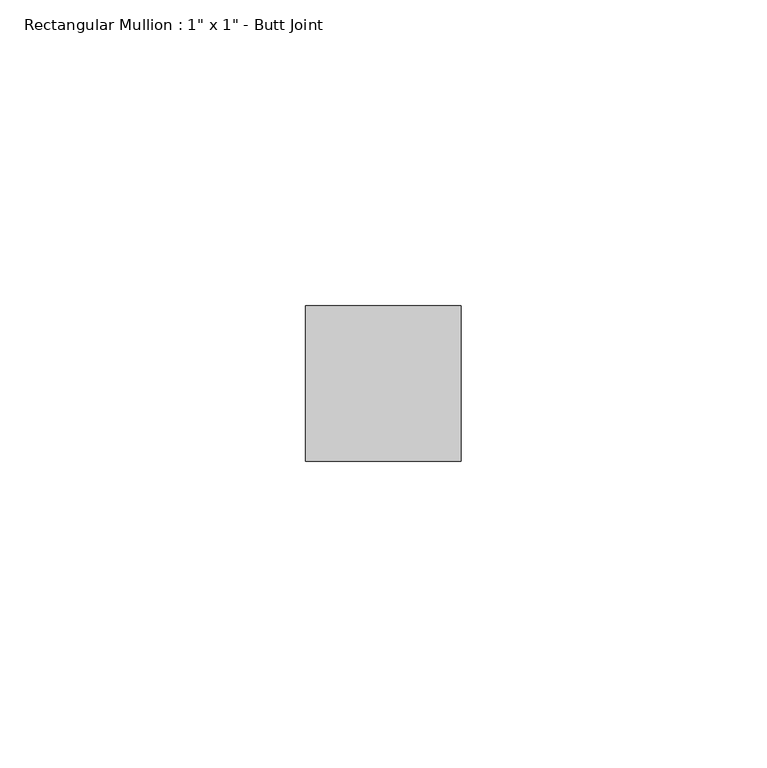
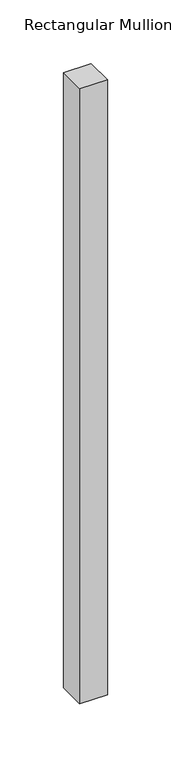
"""IFC4 building model written with IfcOpenShell, lengths in millimetres: member geometry."""

from ifc_helpers import new_model, si_unit, frame, origin, place, context, project, spatial, polyline, outline, extrude, source, transform, mapped, element, save


def member_6c46afcd(model_context):
    return source(origin(), model_context, "Body", "SweptSolid", [
        extrude(outline(polyline([(12.7, 12.7), (12.7, -12.7), (-12.7, -12.7), (-12.7, 12.7), (12.7, 12.7)])), frame((0.0, 0.0, -591.3876141), z_axis=(0.0, 0.0, 1.0), x_axis=(1.0, 0.0, 0.0)), (0.0, 0.0, 1.0), 591.3876141),
    ])


if __name__ == "__main__":
    model = new_model("IFC4")
    model_context = context("Model", 3, world=origin())
    ifc_project = project(units=[si_unit("LENGTHUNIT", "METRE", prefix="MILLI")], contexts=[model_context])
    site = spatial("IfcSite", under=ifc_project)
    building = spatial("IfcBuilding", under=site)
    placement = place(None, origin())
    member_shape = member_6c46afcd(model_context)
    element("IfcMember", 1, ObjectType="Rectangular Mullion : 1\" x 1\" - Butt Joint", at=placement, inside=building, context=model_context, shape_type="MappedRepresentation", body=[
        mapped(member_shape, transform((0.0, 0.0, 0.0), x_axis=(1.0, 0.0, 0.0), y_axis=(0.0, 1.0, 0.0), z_axis=(0.0, 0.0, 1.0))),
    ])
    save(model, "model.ifc")
